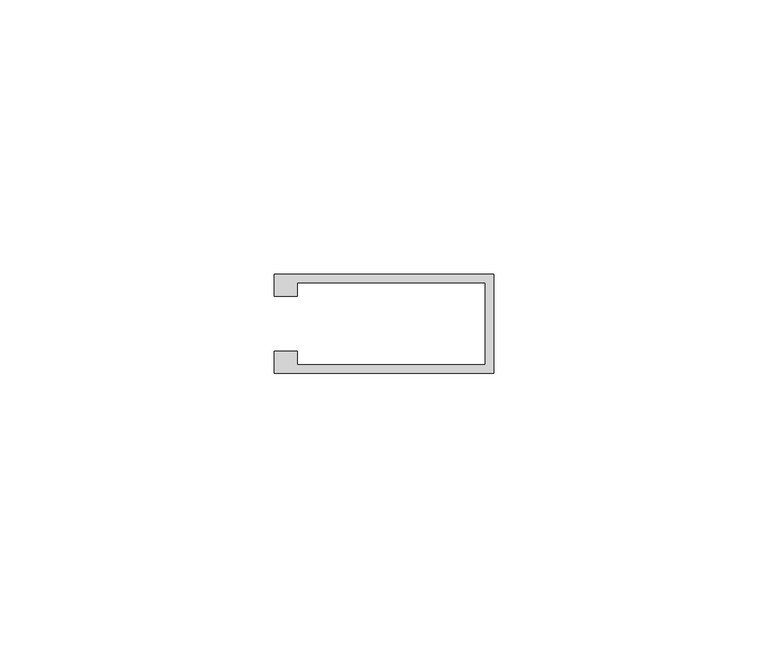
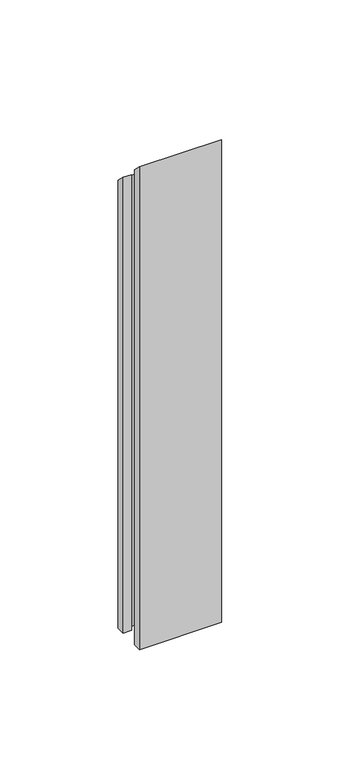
"""IFC4 building model written with IfcOpenShell, lengths in millimetres: member geometry, Прямоугольный импост : 11-AMG-1-Профиль 40Х18 Низ Л."""

from ifc_helpers import new_model, si_unit, origin, place, context, project, spatial, faceted_brep, source, transform, mapped, element, save


def member_5f075863(model_context):
    return source(origin(), model_context, "Body", "Brep", [
        faceted_brep([(-40.0, 5.0, -240.0), (-40.0, 9.0, -240.0), (0.0, 9.0, -240.0), (0.0, -9.0, -240.0), (-40.0, -9.0, -240.0), (-40.0, -5.0, -240.0), (-35.8552307, -5.0, -240.0), (-35.8552307, -7.5, -240.0), (-1.5, -7.5, -240.0), (-1.5, 7.5, -240.0), (-35.8552307, 7.5, -240.0), (-35.8552307, 5.0, -240.0), (-35.8552307, 5.0, -5.0), (-40.0, 5.0, -5.0), (-35.8552307, 7.5, -7.5), (-1.5, 7.5, -7.5), (-1.5, -7.5, 7.5), (-35.8552307, -7.5, 7.5), (-35.8552307, -5.0, 5.0), (-40.0, -5.0, 5.0), (-40.0, -9.0, 9.0), (0.0, -9.0, 9.0), (0.0, 9.0, -9.0), (-40.0, 9.0, -9.0)], [[[0, 1, 2, 3, 4, 5, 6, 7, 8, 9, 10, 11]], [[12, 13, 0, 11]], [[14, 12, 11, 10]], [[15, 14, 10, 9]], [[16, 15, 9, 8]], [[17, 16, 8, 7]], [[18, 17, 7, 6]], [[19, 18, 6, 5]], [[20, 19, 5, 4]], [[21, 20, 4, 3]], [[22, 21, 3, 2]], [[23, 22, 2, 1]], [[13, 23, 1, 0]], [[13, 12, 14, 15, 16, 17, 18, 19, 20, 21, 22, 23]]]),
    ])


if __name__ == "__main__":
    model = new_model("IFC4")
    model_context = context("Model", 3, world=origin())
    ifc_project = project(units=[si_unit("LENGTHUNIT", "METRE", prefix="MILLI")], contexts=[model_context])
    site = spatial("IfcSite", under=ifc_project)
    building = spatial("IfcBuilding", under=site)
    placement = place(None, origin())
    member_shape = member_5f075863(model_context)
    element("IfcMember", 1, ObjectType="Прямоугольный импост : 11-AMG-1-Профиль 40Х18 Низ Л", at=placement, inside=building, context=model_context, shape_type="MappedRepresentation", body=[
        mapped(member_shape, transform((0.0, 0.0, 0.0), x_axis=(1.0, 0.0, 0.0), y_axis=(0.0, 1.0, 0.0), z_axis=(0.0, 0.0, 1.0))),
    ])
    save(model, "model.ifc")
